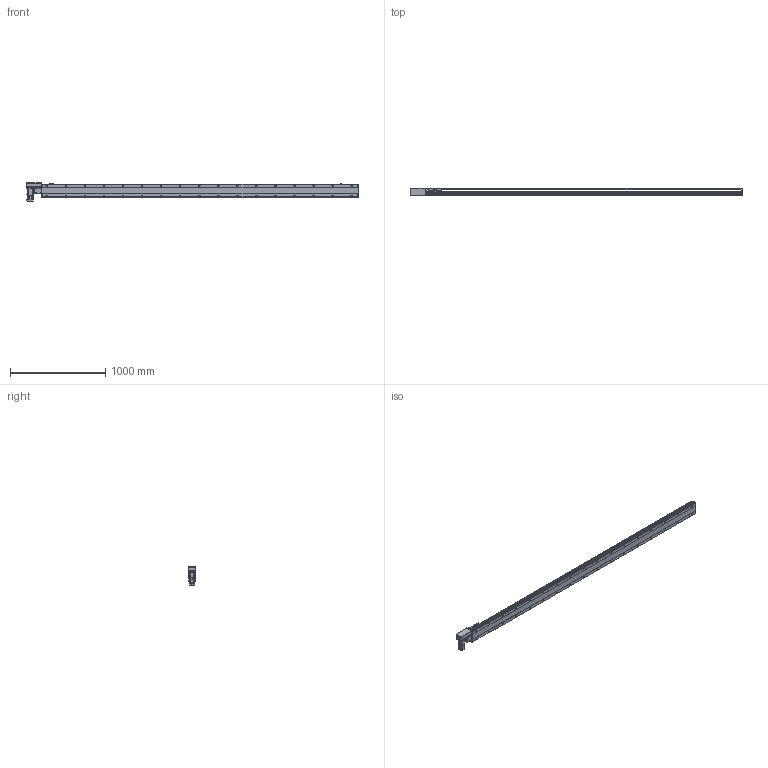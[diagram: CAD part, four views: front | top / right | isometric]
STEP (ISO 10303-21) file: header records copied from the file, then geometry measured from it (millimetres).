
FILE_DESCRIPTION(/* description */ ('STEP AP214'),/* implementation_level */ '2;1');
FILE_NAME(/* name */ 'PBS140-P40-S3050-R-T40-C1-N(0)',/* time_stamp */ '2022-06-06T03:32:21+02:00',/* author */ ('License CC BY-ND 4.0'),/* organization */ ('CADENAS'),/* preprocessor_version */ 'ST-DEVELOPER v18.102',/* originating_system */ 'PARTsolutions',/* authorisation */ ' ');
FILE_SCHEMA (('AUTOMOTIVE_DESIGN {1 0 10303 214 3 1 1}'));
Length unit declared in the file: millimetre
Products named in the file (7): PBS140-P40-S3050-R-T40-C1-N(0); PBS140_sensor; PBS140_plant; PBS140_sliser; T40-p1; PBS140T-R_motors; PBS140-S3050()_body
Assembly tree (8 placements, depth 2):
  PBS140-P40-S3050-R-T40-C1-N(0)
    PBS140_sensor  x3
    PBS140_plant
    PBS140_sliser
    T40-p1
    PBS140T-R_motors
    PBS140-S3050()_body
Bounding box: 3483 x 80.5 x 189.7 mm (x, y, z)
Volume: 15107331.1 mm3; surface area: 2560929.4 mm2
Topology: 8 solids, 8 shells, 1219 faces, 3196 edges, 2087 vertices
Faces by surface type: plane 746, cylinder 403, cone 60, sphere 8, torus 2
Full cylindrical faces by diameter (mm): 3.242 x4, 4 x2, 4.134 x4, 4.4 x8, 4.5 x2, 4.8 x4, 4.917 x42, 5.5 x7, 6 x2, 7 x36, 7.5 x8, 8 x12, 8.5 x4, 10.5 x34, 14 x1, 30 x2, 50 x2
Entity records: 34767 total; most frequent: CARTESIAN_POINT 6673, DIRECTION 5827, ORIENTED_EDGE 5452, EDGE_CURVE 2726, AXIS2_PLACEMENT_3D 2077, VERTEX_POINT 1917, LINE 1673, VECTOR 1673
